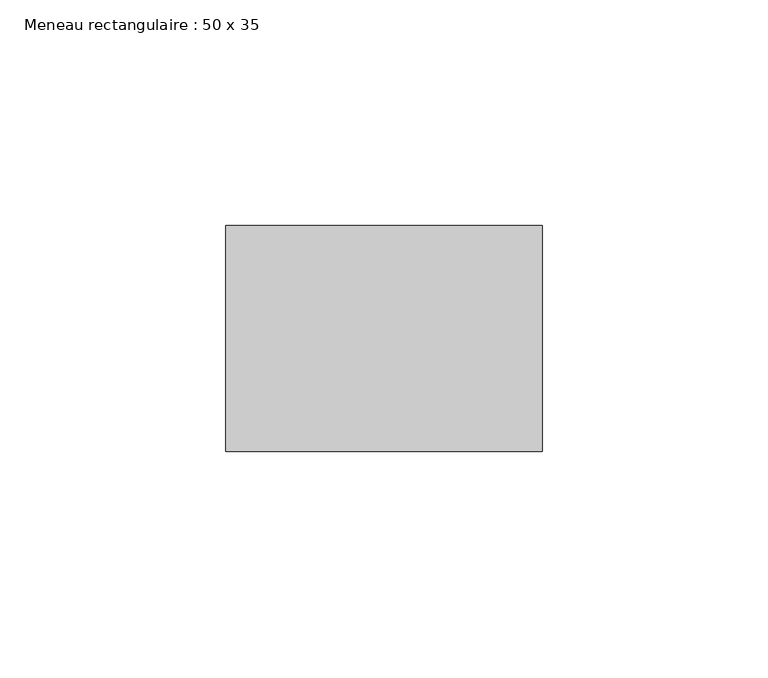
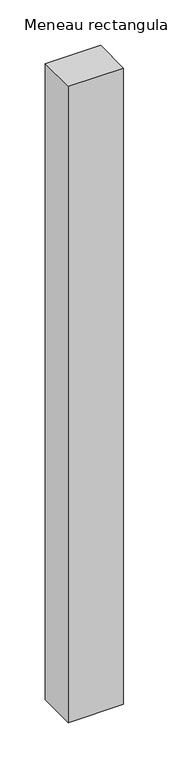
"""IFC4 building model written with IfcOpenShell, lengths in millimetres: member geometry, Meneau rectangulaire : 50 x 35."""

from ifc_helpers import new_model, si_unit, frame, origin, place, context, project, spatial, polyline, outline, extrude, source, transform, mapped, element, save


def meneau_rectangulaire_50_x_35_78c0ed61(model_context):
    return source(origin(), model_context, "Body", "SweptSolid", [
        extrude(outline(polyline([(0.0, 0.0), (0.0, -50.0), (-70.0, -50.0), (-70.0, 0.0), (0.0, 0.0)])), frame((0.0, 0.0, -854.508536), z_axis=(0.0, 0.0, 1.0), x_axis=(1.0, 0.0, 0.0)), (0.0, 0.0, 1.0), 854.508536),
    ])


if __name__ == "__main__":
    model = new_model("IFC4")
    model_context = context("Model", 3, world=origin())
    ifc_project = project(units=[si_unit("LENGTHUNIT", "METRE", prefix="MILLI")], contexts=[model_context])
    site = spatial("IfcSite", under=ifc_project)
    building = spatial("IfcBuilding", under=site)
    placement = place(None, origin())
    meneau_rectangulaire_50_x_35_shape = meneau_rectangulaire_50_x_35_78c0ed61(model_context)
    element("IfcMember", 1, ObjectType="Meneau rectangulaire : 50 x 35", at=placement, inside=building, context=model_context, shape_type="MappedRepresentation", body=[
        mapped(meneau_rectangulaire_50_x_35_shape, transform((0.0, 0.0, 0.0), x_axis=(1.0, 0.0, 0.0), y_axis=(0.0, 1.0, 0.0), z_axis=(0.0, 0.0, 1.0))),
    ])
    save(model, "model.ifc")
